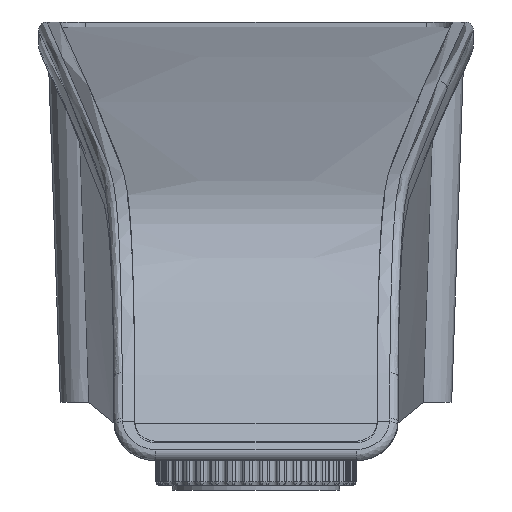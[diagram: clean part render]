
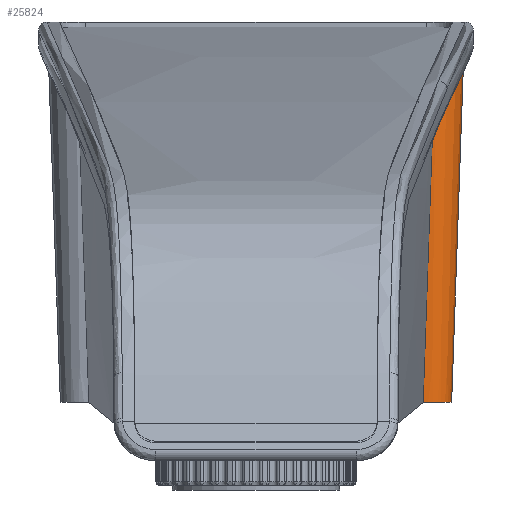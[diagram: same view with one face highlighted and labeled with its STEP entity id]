
A CAD part, front view. The second image highlights one B-rep face of the part: STEP entity #25824.
In plain terms, the highlighted conical face has half-angle 2 degrees and reference radius 4.136 mm.
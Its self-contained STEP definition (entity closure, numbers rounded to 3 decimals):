
#3091=CARTESIAN_POINT('',(20.,-35.,7.));
#3092=DIRECTION('',(0.,0.,-1.));
#3093=DIRECTION('',(1.,0.,0.));
#3094=AXIS2_PLACEMENT_3D('',#3091,#3092,#3093);
#5116=CARTESIAN_POINT('',(20.,-35.,48.5));
#5117=DIRECTION('',(0.,0.,1.));
#5118=DIRECTION('',(0.298,-0.955,0.));
#5119=AXIS2_PLACEMENT_3D('',#5116,#5117,#5118);
#5141=DIRECTION('',(0.035,0.,0.999));
#5142=VECTOR('',#5141,41.525);
#5143=CARTESIAN_POINT('',(23.411,-35.,7.));
#5144=LINE('',#5143,#5142);
#5145=CARTESIAN_POINT('',(19.998,-38.411,7.));
#5146=CARTESIAN_POINT('',(20.141,-38.554,11.086));
#5147=CARTESIAN_POINT('',(20.439,-38.834,19.608));
#5148=CARTESIAN_POINT('',(20.922,-39.241,33.417));
#5149=CARTESIAN_POINT('',(21.269,-39.507,43.353));
#5150=CARTESIAN_POINT('',(21.449,-39.639,48.5));
#17975=VERTEX_POINT('',#5145);
#17976=VERTEX_POINT('',#5150);
#17983=CARTESIAN_POINT('',(23.411,-35.,7.));
#17984=VERTEX_POINT('',#17983);
#17987=CARTESIAN_POINT('',(24.86,-35.,48.5));
#17988=VERTEX_POINT('',#17987);
#25812=CARTESIAN_POINT('',(20.,-35.,27.75));
#25813=DIRECTION('',(0.,0.,1.));
#25814=DIRECTION('',(1.,0.,0.));
#25815=AXIS2_PLACEMENT_3D('',#25812,#25813,#25814);
#25816=CONICAL_SURFACE('',#25815,4.136,2.);
#25817=ORIENTED_EDGE('',*,*,#25784,.T.);
#25818=ORIENTED_EDGE('',*,*,#25804,.F.);
#25819=ORIENTED_EDGE('',*,*,#23174,.T.);
#25821=ORIENTED_EDGE('',*,*,#25820,.T.);
#25822=EDGE_LOOP('',(#25817,#25818,#25819,#25821));
#25823=FACE_OUTER_BOUND('',#25822,.F.);
#3095=CIRCLE('',#3094,3.411);
#5120=CIRCLE('',#5119,4.86);
#5151=B_SPLINE_CURVE_WITH_KNOTS('',3,(#5145,#5146,#5147,#5148,#5149,#5150),
.UNSPECIFIED.,.F.,.F.,(4,1,1,4),(0.,0.333,0.667,1.),
.UNSPECIFIED.);
#23174=EDGE_CURVE('',#17984,#17975,#3095,.T.);
#25784=EDGE_CURVE('',#17976,#17988,#5120,.T.);
#25804=EDGE_CURVE('',#17984,#17988,#5144,.T.);
#25820=EDGE_CURVE('',#17975,#17976,#5151,.T.);
#25824=ADVANCED_FACE('',(#25823),#25816,.T.);
